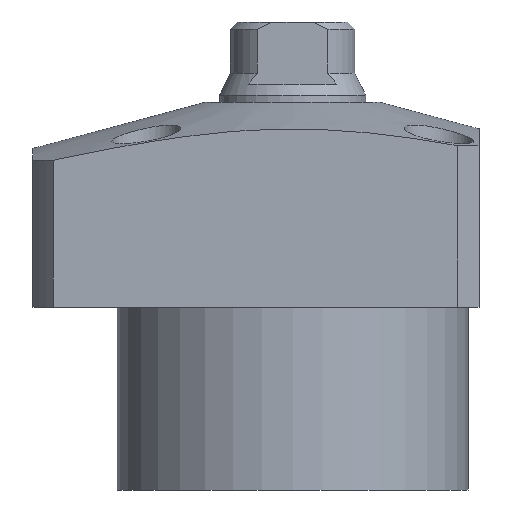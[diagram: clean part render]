
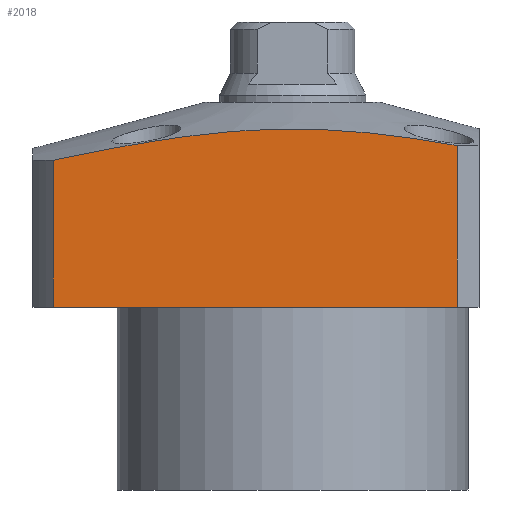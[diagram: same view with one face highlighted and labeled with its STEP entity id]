
A CAD part, front view. The second image highlights one B-rep face of the part: STEP entity #2018.
In plain terms, the highlighted planar face has unit normal (0, -1, 0).
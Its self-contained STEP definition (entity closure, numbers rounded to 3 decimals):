
#43 = PLANE ( 'NONE',  #1700 ) ;
#53 = CARTESIAN_POINT ( 'NONE',  ( -32.741, -25.5, 14. ) ) ;
#54 = VERTEX_POINT ( 'NONE', #1942 ) ;
#73 = EDGE_LOOP ( 'NONE', ( #1752, #2294, #1723, #425 ) ) ;
#202 = CARTESIAN_POINT ( 'NONE',  ( 22.5, -25.5, 14. ) ) ;
#265 = CARTESIAN_POINT ( 'NONE',  ( 10.959, -25.5, 9.784 ) ) ;
#416 = VECTOR ( 'NONE', #2307, 1000. ) ;
#425 = ORIENTED_EDGE ( 'NONE', *, *, #1283, .T. ) ;
#434 = CARTESIAN_POINT ( 'NONE',  ( -28.186, -25.5, 7.04 ) ) ;
#501 = CARTESIAN_POINT ( 'NONE',  ( 17.909, -25.5, 8.883 ) ) ;
#513 = VERTEX_POINT ( 'NONE', #2416 ) ;
#524 = CARTESIAN_POINT ( 'NONE',  ( -32.741, -25.5, -14. ) ) ;
#631 = FACE_OUTER_BOUND ( 'NONE', #73, .T. ) ;
#656 = CARTESIAN_POINT ( 'NONE',  ( 14.442, -25.5, 9.367 ) ) ;
#709 = CARTESIAN_POINT ( 'NONE',  ( 22.5, -25.5, 8.103 ) ) ;
#775 = EDGE_CURVE ( 'NONE', #1522, #2127, #2126, .T. ) ;
#817 = DIRECTION ( 'NONE',  ( 0., 1., 0. ) ) ;
#899 = DIRECTION ( 'NONE',  ( 1., 0., 0. ) ) ;
#1010 = CARTESIAN_POINT ( 'NONE',  ( -30.466, -25.5, 6.577 ) ) ;
#1039 = CARTESIAN_POINT ( 'NONE',  ( -9.861, -25.5, 9.99 ) ) ;
#1093 = EDGE_CURVE ( 'NONE', #54, #513, #2141, .T. ) ;
#1244 = CARTESIAN_POINT ( 'NONE',  ( 9.796, -25.5, 9.902 ) ) ;
#1283 = EDGE_CURVE ( 'NONE', #1522, #54, #2261, .T. ) ;
#1382 = VECTOR ( 'NONE', #1742, 1000. ) ;
#1405 = CARTESIAN_POINT ( 'NONE',  ( -14.452, -25.5, 9.423 ) ) ;
#1425 = CARTESIAN_POINT ( 'NONE',  ( 6.31, -25.5, 10.201 ) ) ;
#1453 = CARTESIAN_POINT ( 'NONE',  ( 20.208, -25.5, 8.509 ) ) ;
#1509 = LINE ( 'NONE', #202, #1382 ) ;
#1513 = CARTESIAN_POINT ( 'NONE',  ( -0.637, -25.5, 10.409 ) ) ;
#1522 = VERTEX_POINT ( 'NONE', #2212 ) ;
#1613 = CARTESIAN_POINT ( 'NONE',  ( -2.947, -25.5, 10.364 ) ) ;
#1622 = CARTESIAN_POINT ( 'NONE',  ( 13.284, -25.5, 9.516 ) ) ;
#1700 = AXIS2_PLACEMENT_3D ( 'NONE', #53, #817, #1788 ) ;
#1723 = ORIENTED_EDGE ( 'NONE', *, *, #775, .F. ) ;
#1742 = DIRECTION ( 'NONE',  ( 0., 0., 1. ) ) ;
#1752 = ORIENTED_EDGE ( 'NONE', *, *, #1093, .T. ) ;
#1776 = CARTESIAN_POINT ( 'NONE',  ( -21.325, -25.5, 8.322 ) ) ;
#1788 = DIRECTION ( 'NONE',  ( -1., 0., 0. ) ) ;
#1839 = CARTESIAN_POINT ( 'NONE',  ( 22.5, -25.5, 8.103 ) ) ;
#1942 = CARTESIAN_POINT ( 'NONE',  ( -32.741, -25.5, -14. ) ) ;
#2018 = ADVANCED_FACE ( 'NONE', ( #631 ), #43, .F. ) ;
#2033 = VECTOR ( 'NONE', #899, 1000. ) ;
#2126 = B_SPLINE_CURVE_WITH_KNOTS ( 'NONE', 3,
 ( #2330, #1010, #434, #2153, #1776, #1405, #1039, #1613, #1513, #2429, #1425, #1244, #265, #1622, #656, #501, #1453, #1839 ),
 .UNSPECIFIED., .F., .F.,
 ( 4, 2, 2, 2, 2, 2, 2, 2, 4 ),
 ( 0.029, 0.036, 0.043, 0.057, 0.064, 0.071, 0.074, 0.078, 0.085 ),
 .UNSPECIFIED. ) ;
#2127 = VERTEX_POINT ( 'NONE', #709 ) ;
#2141 = LINE ( 'NONE', #524, #2033 ) ;
#2153 = CARTESIAN_POINT ( 'NONE',  ( -23.614, -25.5, 7.913 ) ) ;
#2212 = CARTESIAN_POINT ( 'NONE',  ( -32.741, -25.5, 6.095 ) ) ;
#2261 = LINE ( 'NONE', #2321, #416 ) ;
#2294 = ORIENTED_EDGE ( 'NONE', *, *, #2329, .T. ) ;
#2307 = DIRECTION ( 'NONE',  ( 0., 0., -1. ) ) ;
#2321 = CARTESIAN_POINT ( 'NONE',  ( -32.741, -25.5, 14. ) ) ;
#2329 = EDGE_CURVE ( 'NONE', #513, #2127, #1509, .T. ) ;
#2330 = CARTESIAN_POINT ( 'NONE',  ( -32.741, -25.5, 6.095 ) ) ;
#2416 = CARTESIAN_POINT ( 'NONE',  ( 22.5, -25.5, -14. ) ) ;
#2429 = CARTESIAN_POINT ( 'NONE',  ( 3.991, -25.5, 10.327 ) ) ;
